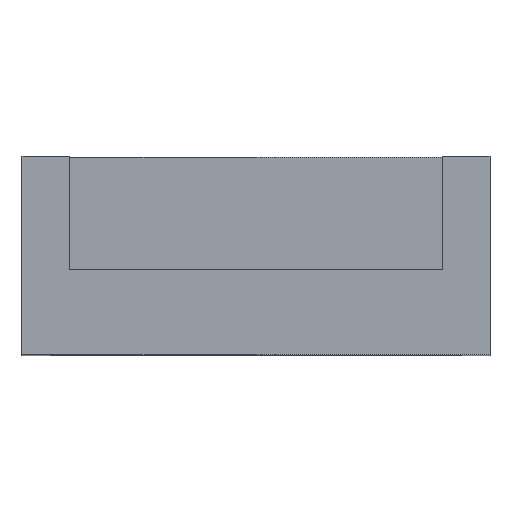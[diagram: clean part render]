
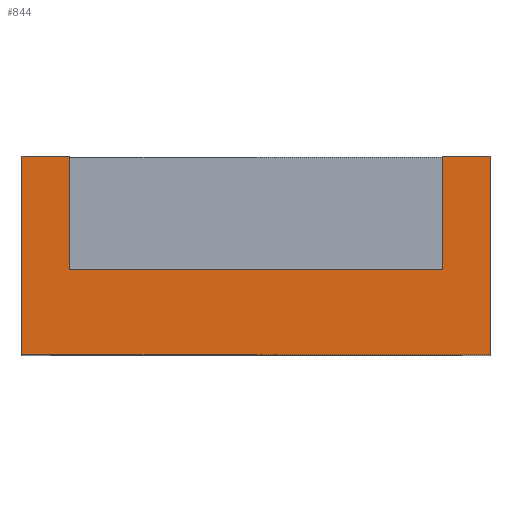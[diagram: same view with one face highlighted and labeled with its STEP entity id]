
A CAD part, top view. The second image highlights one B-rep face of the part: STEP entity #844.
In plain terms, the highlighted planar face has unit normal (0, 0, 1).
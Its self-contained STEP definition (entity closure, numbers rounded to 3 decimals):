
#21=DIRECTION('',(1.,0.,0.));
#22=VECTOR('',#21,24.8);
#23=CARTESIAN_POINT('',(-12.4,0.,25.55));
#24=LINE('',#23,#22);
#145=DIRECTION('',(1.,0.,0.));
#146=VECTOR('',#145,2.5);
#147=CARTESIAN_POINT('',(9.9,10.5,25.55));
#148=LINE('',#147,#146);
#153=DIRECTION('',(1.,0.,0.));
#154=VECTOR('',#153,2.5);
#155=CARTESIAN_POINT('',(-12.4,10.5,25.55));
#156=LINE('',#155,#154);
#217=DIRECTION('',(0.,1.,0.));
#218=VECTOR('',#217,10.5);
#219=CARTESIAN_POINT('',(12.4,0.,25.55));
#220=LINE('',#219,#218);
#285=DIRECTION('',(0.,-1.,0.));
#286=VECTOR('',#285,6.);
#287=CARTESIAN_POINT('',(9.9,10.5,25.55));
#288=LINE('',#287,#286);
#289=DIRECTION('',(0.,1.,0.));
#290=VECTOR('',#289,10.5);
#291=CARTESIAN_POINT('',(-12.4,0.,25.55));
#292=LINE('',#291,#290);
#293=DIRECTION('',(0.,-1.,0.));
#294=VECTOR('',#293,6.);
#295=CARTESIAN_POINT('',(-9.9,10.5,25.55));
#296=LINE('',#295,#294);
#297=DIRECTION('',(-1.,0.,0.));
#298=VECTOR('',#297,19.8);
#299=CARTESIAN_POINT('',(9.9,4.5,25.55));
#300=LINE('',#299,#298);
#370=CARTESIAN_POINT('',(-12.4,0.,25.55));
#372=VERTEX_POINT('',#370);
#373=CARTESIAN_POINT('',(12.4,0.,25.55));
#374=VERTEX_POINT('',#373);
#389=CARTESIAN_POINT('',(-12.4,10.5,25.55));
#390=VERTEX_POINT('',#389);
#391=CARTESIAN_POINT('',(12.4,10.5,25.55));
#392=VERTEX_POINT('',#391);
#433=CARTESIAN_POINT('',(9.9,10.5,25.55));
#435=VERTEX_POINT('',#433);
#437=CARTESIAN_POINT('',(-9.9,10.5,25.55));
#439=VERTEX_POINT('',#437);
#441=CARTESIAN_POINT('',(9.9,4.5,25.55));
#442=VERTEX_POINT('',#441);
#443=CARTESIAN_POINT('',(-9.9,4.5,25.55));
#444=VERTEX_POINT('',#443);
#827=CARTESIAN_POINT('',(-12.4,0.,25.55));
#828=DIRECTION('',(0.,0.,1.));
#829=DIRECTION('',(1.,0.,0.));
#830=AXIS2_PLACEMENT_3D('',#827,#828,#829);
#831=PLANE('',#830);
#832=ORIENTED_EDGE('',*,*,#819,.F.);
#833=ORIENTED_EDGE('',*,*,#650,.T.);
#834=ORIENTED_EDGE('',*,*,#707,.F.);
#835=ORIENTED_EDGE('',*,*,#488,.F.);
#836=ORIENTED_EDGE('',*,*,#741,.T.);
#837=ORIENTED_EDGE('',*,*,#662,.T.);
#839=ORIENTED_EDGE('',*,*,#838,.T.);
#841=ORIENTED_EDGE('',*,*,#840,.F.);
#842=EDGE_LOOP('',(#832,#833,#834,#835,#836,#837,#839,#841));
#843=FACE_OUTER_BOUND('',#842,.F.);
#844=ADVANCED_FACE('',(#843),#831,.T.);
#488=EDGE_CURVE('',#372,#374,#24,.T.);
#650=EDGE_CURVE('',#435,#392,#148,.T.);
#662=EDGE_CURVE('',#390,#439,#156,.T.);
#707=EDGE_CURVE('',#374,#392,#220,.T.);
#741=EDGE_CURVE('',#372,#390,#292,.T.);
#819=EDGE_CURVE('',#435,#442,#288,.T.);
#838=EDGE_CURVE('',#439,#444,#296,.T.);
#840=EDGE_CURVE('',#442,#444,#300,.T.);
